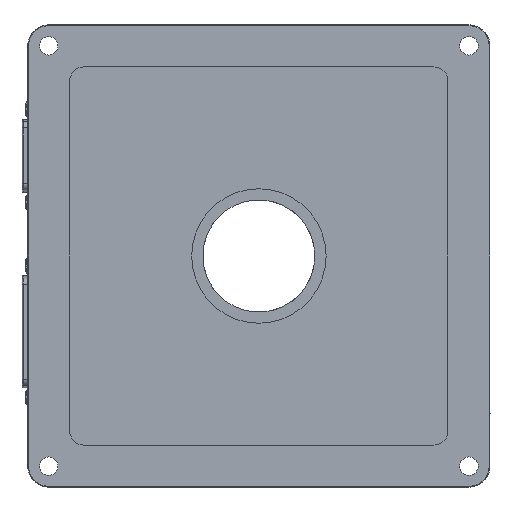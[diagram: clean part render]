
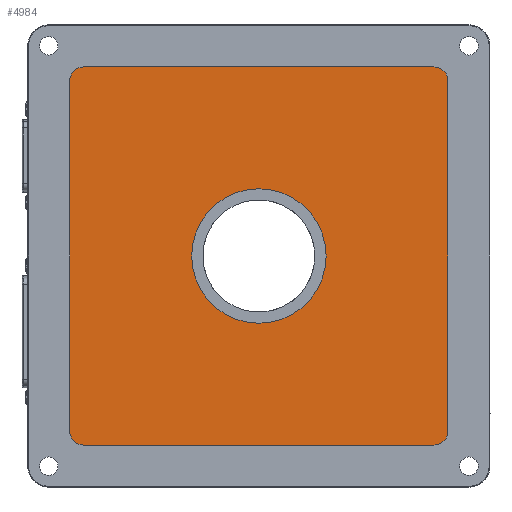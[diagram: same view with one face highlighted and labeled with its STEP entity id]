
A CAD part, front view. The second image highlights one B-rep face of the part: STEP entity #4984.
In plain terms, the highlighted planar face has unit normal (0, -1, 0).
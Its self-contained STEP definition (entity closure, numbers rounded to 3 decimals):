
#1953=CARTESIAN_POINT('',(62.5,-34.5,62.5));
#1954=DIRECTION('',(0.,-1.,0.));
#1955=DIRECTION('',(1.,0.,0.));
#1956=AXIS2_PLACEMENT_3D('',#1953,#1954,#1955);
#1961=DIRECTION('',(0.,0.,1.));
#1962=VECTOR('',#1961,125.);
#1963=CARTESIAN_POINT('',(67.5,-34.5,-62.5));
#1964=LINE('',#1963,#1962);
#1968=CARTESIAN_POINT('',(62.5,-34.5,-62.5));
#1969=DIRECTION('',(0.,-1.,0.));
#1970=DIRECTION('',(0.,0.,-1.));
#1971=AXIS2_PLACEMENT_3D('',#1968,#1969,#1970);
#1976=DIRECTION('',(1.,0.,0.));
#1977=VECTOR('',#1976,125.);
#1978=CARTESIAN_POINT('',(-62.5,-34.5,-67.5));
#1979=LINE('',#1978,#1977);
#1983=CARTESIAN_POINT('',(-62.5,-34.5,-62.5));
#1984=DIRECTION('',(0.,-1.,0.));
#1985=DIRECTION('',(-1.,0.,0.));
#1986=AXIS2_PLACEMENT_3D('',#1983,#1984,#1985);
#1991=DIRECTION('',(0.,0.,-1.));
#1992=VECTOR('',#1991,125.);
#1993=CARTESIAN_POINT('',(-67.5,-34.5,62.5));
#1994=LINE('',#1993,#1992);
#1998=CARTESIAN_POINT('',(-62.5,-34.5,62.5));
#1999=DIRECTION('',(0.,-1.,0.));
#2000=DIRECTION('',(0.,0.,1.));
#2001=AXIS2_PLACEMENT_3D('',#1998,#1999,#2000);
#2006=DIRECTION('',(-1.,0.,0.));
#2007=VECTOR('',#2006,125.);
#2008=CARTESIAN_POINT('',(62.5,-34.5,67.5));
#2009=LINE('',#2008,#2007);
#2013=CARTESIAN_POINT('',(0.,-34.5,0.));
#2014=DIRECTION('',(0.,-1.,0.));
#2015=DIRECTION('',(1.,0.,0.));
#2016=AXIS2_PLACEMENT_3D('',#2013,#2014,#2015);
#2021=CARTESIAN_POINT('',(0.,-34.5,0.));
#2022=DIRECTION('',(0.,-1.,0.));
#2023=DIRECTION('',(-1.,0.,0.));
#2024=AXIS2_PLACEMENT_3D('',#2021,#2022,#2023);
#2775=CARTESIAN_POINT('',(67.5,-34.5,62.5));
#2776=CARTESIAN_POINT('',(62.5,-34.5,67.5));
#2777=VERTEX_POINT('',#2775);
#2778=VERTEX_POINT('',#2776);
#2779=CARTESIAN_POINT('',(-62.5,-34.5,67.5));
#2780=VERTEX_POINT('',#2779);
#2781=CARTESIAN_POINT('',(-67.5,-34.5,62.5));
#2782=VERTEX_POINT('',#2781);
#2783=CARTESIAN_POINT('',(-67.5,-34.5,-62.5));
#2784=VERTEX_POINT('',#2783);
#2785=CARTESIAN_POINT('',(-62.5,-34.5,-67.5));
#2786=VERTEX_POINT('',#2785);
#2787=CARTESIAN_POINT('',(62.5,-34.5,-67.5));
#2788=VERTEX_POINT('',#2787);
#2789=CARTESIAN_POINT('',(67.5,-34.5,-62.5));
#2790=VERTEX_POINT('',#2789);
#3128=CARTESIAN_POINT('',(24.,-34.5,0.));
#3129=CARTESIAN_POINT('',(-24.,-34.5,0.));
#3130=VERTEX_POINT('',#3128);
#3131=VERTEX_POINT('',#3129);
#4956=CARTESIAN_POINT('',(0.,-34.5,0.));
#4957=DIRECTION('',(0.,-1.,0.));
#4958=DIRECTION('',(0.,0.,-1.));
#4959=AXIS2_PLACEMENT_3D('',#4956,#4957,#4958);
#4960=PLANE('',#4959);
#4962=ORIENTED_EDGE('',*,*,#4961,.F.);
#4964=ORIENTED_EDGE('',*,*,#4963,.F.);
#4966=ORIENTED_EDGE('',*,*,#4965,.F.);
#4968=ORIENTED_EDGE('',*,*,#4967,.F.);
#4970=ORIENTED_EDGE('',*,*,#4969,.F.);
#4972=ORIENTED_EDGE('',*,*,#4971,.F.);
#4974=ORIENTED_EDGE('',*,*,#4973,.F.);
#4976=ORIENTED_EDGE('',*,*,#4975,.F.);
#4977=EDGE_LOOP('',(#4962,#4964,#4966,#4968,#4970,#4972,#4974,#4976));
#4978=FACE_OUTER_BOUND('',#4977,.F.);
#4979=ORIENTED_EDGE('',*,*,#4946,.T.);
#4981=ORIENTED_EDGE('',*,*,#4980,.T.);
#4982=EDGE_LOOP('',(#4979,#4981));
#4983=FACE_BOUND('',#4982,.F.);
#1957=CIRCLE('',#1956,5.);
#1972=CIRCLE('',#1971,5.);
#1987=CIRCLE('',#1986,5.);
#2002=CIRCLE('',#2001,5.);
#2017=CIRCLE('',#2016,24.);
#2025=CIRCLE('',#2024,24.);
#4946=EDGE_CURVE('',#3130,#3131,#2017,.T.);
#4961=EDGE_CURVE('',#2777,#2778,#1957,.T.);
#4963=EDGE_CURVE('',#2790,#2777,#1964,.T.);
#4965=EDGE_CURVE('',#2788,#2790,#1972,.T.);
#4967=EDGE_CURVE('',#2786,#2788,#1979,.T.);
#4969=EDGE_CURVE('',#2784,#2786,#1987,.T.);
#4971=EDGE_CURVE('',#2782,#2784,#1994,.T.);
#4973=EDGE_CURVE('',#2780,#2782,#2002,.T.);
#4975=EDGE_CURVE('',#2778,#2780,#2009,.T.);
#4980=EDGE_CURVE('',#3131,#3130,#2025,.T.);
#4984=ADVANCED_FACE('',(#4978,#4983),#4960,.T.);
